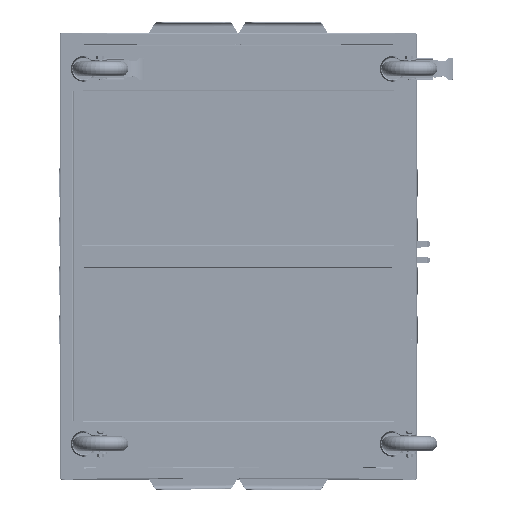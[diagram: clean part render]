
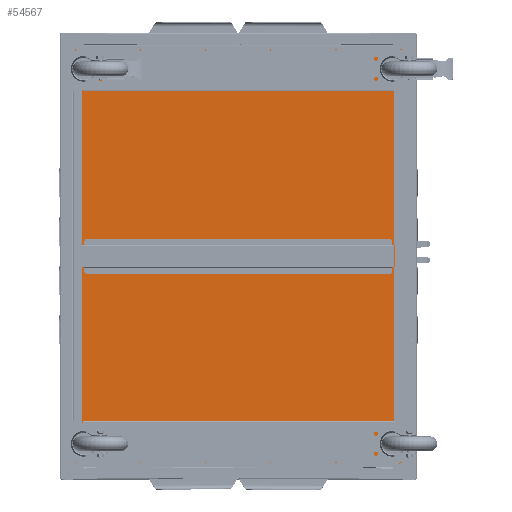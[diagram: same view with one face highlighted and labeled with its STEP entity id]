
A CAD part, front view. The second image highlights one B-rep face of the part: STEP entity #54567.
In plain terms, the highlighted planar face has unit normal (0, -1, 0).
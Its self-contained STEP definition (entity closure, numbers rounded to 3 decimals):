
#33552 = DIRECTION ( 'NONE',  ( 0., 0., -1. ) ) ;
#40866 = ORIENTED_EDGE ( 'NONE', *, *, #531475, .F. ) ;
#42381 = DIRECTION ( 'NONE',  ( 1., 0., 0. ) ) ;
#54567 = ADVANCED_FACE ( 'NONE', ( #128086 ), #136359, .F. ) ;
#60030 = CARTESIAN_POINT ( 'NONE',  ( -668.7, -270.8, -471.7 ) ) ;
#89016 = VECTOR ( 'NONE', #232602, 1000. ) ;
#96535 = EDGE_CURVE ( 'NONE', #446300, #372793, #405581, .T. ) ;
#128086 = FACE_OUTER_BOUND ( 'NONE', #256192, .T. ) ;
#136359 = PLANE ( 'NONE',  #515110 ) ;
#179292 = CARTESIAN_POINT ( 'NONE',  ( 68.7, -270.8, 471.7 ) ) ;
#212245 = CARTESIAN_POINT ( 'NONE',  ( -668.7, -270.8, 471.7 ) ) ;
#232602 = DIRECTION ( 'NONE',  ( 0., 0., 1. ) ) ;
#240493 = VECTOR ( 'NONE', #33552, 1000. ) ;
#256192 = EDGE_LOOP ( 'NONE', ( #508984, #40866, #556039, #285810 ) ) ;
#270148 = VERTEX_POINT ( 'NONE', #346006 ) ;
#285810 = ORIENTED_EDGE ( 'NONE', *, *, #444586, .F. ) ;
#294531 = LINE ( 'NONE', #212245, #328182 ) ;
#309238 = CARTESIAN_POINT ( 'NONE',  ( -300., -270.8, 0. ) ) ;
#328182 = VECTOR ( 'NONE', #42381, 1000. ) ;
#346006 = CARTESIAN_POINT ( 'NONE',  ( 68.7, -270.8, -471.7 ) ) ;
#349495 = VERTEX_POINT ( 'NONE', #179292 ) ;
#355987 = LINE ( 'NONE', #528316, #378230 ) ;
#372793 = VERTEX_POINT ( 'NONE', #438772 ) ;
#378230 = VECTOR ( 'NONE', #486009, 1000. ) ;
#405581 = LINE ( 'NONE', #60030, #89016 ) ;
#438772 = CARTESIAN_POINT ( 'NONE',  ( -668.7, -270.8, 471.7 ) ) ;
#441014 = CARTESIAN_POINT ( 'NONE',  ( -668.7, -270.8, -471.7 ) ) ;
#442094 = DIRECTION ( 'NONE',  ( 1., 0., 0. ) ) ;
#444586 = EDGE_CURVE ( 'NONE', #372793, #349495, #294531, .T. ) ;
#446300 = VERTEX_POINT ( 'NONE', #441014 ) ;
#468439 = EDGE_CURVE ( 'NONE', #349495, #270148, #514702, .T. ) ;
#481714 = DIRECTION ( 'NONE',  ( 0., 1., 0. ) ) ;
#486009 = DIRECTION ( 'NONE',  ( -1., 0., 0. ) ) ;
#508984 = ORIENTED_EDGE ( 'NONE', *, *, #96535, .F. ) ;
#511907 = CARTESIAN_POINT ( 'NONE',  ( 68.7, -270.8, 471.7 ) ) ;
#514702 = LINE ( 'NONE', #511907, #240493 ) ;
#515110 = AXIS2_PLACEMENT_3D ( 'NONE', #309238, #481714, #442094 ) ;
#528316 = CARTESIAN_POINT ( 'NONE',  ( 68.7, -270.8, -471.7 ) ) ;
#531475 = EDGE_CURVE ( 'NONE', #270148, #446300, #355987, .T. ) ;
#556039 = ORIENTED_EDGE ( 'NONE', *, *, #468439, .F. ) ;
